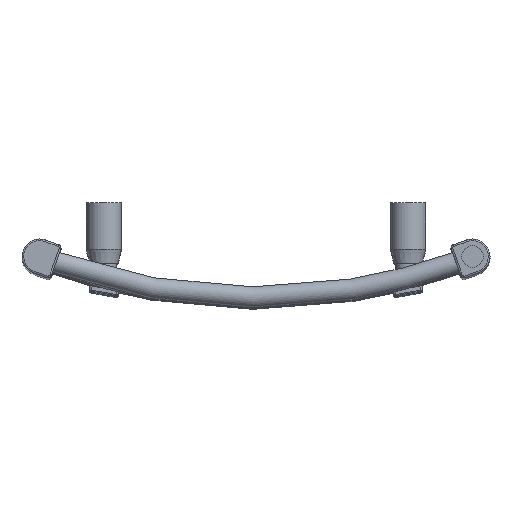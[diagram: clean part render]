
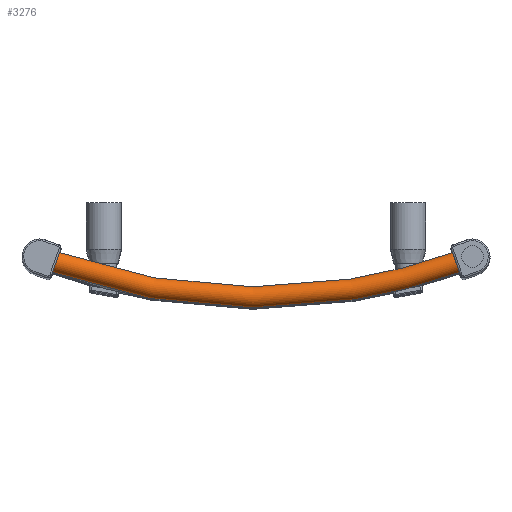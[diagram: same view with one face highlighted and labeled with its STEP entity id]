
A CAD part, top view. The second image highlights one B-rep face of the part: STEP entity #3276.
In plain terms, the highlighted toroidal (fillet/blend) face has major radius 505 mm and minor radius 9 mm.
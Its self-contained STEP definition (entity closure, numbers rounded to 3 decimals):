
#3249=CARTESIAN_POINT('',(0.,505.0,756.));
#3250=DIRECTION('',(0.,0.,1.0));
#3251=DIRECTION('',(1.0,0.0,0.0));
#3252=AXIS2_PLACEMENT_3D('',#3249,#3250,#3251);
#3253=TOROIDAL_SURFACE('',#3252,505.,9.);
#3254=CARTESIAN_POINT('',(167.839,38.26,756.0));
#3255=VERTEX_POINT('',#3254);
#3256=CARTESIAN_POINT('',(170.885,29.791,756.));
#3257=DIRECTION('',(0.941,0.338,0.));
#3258=DIRECTION('',(0.338,-0.941,0.));
#3259=AXIS2_PLACEMENT_3D('',#3256,#3257,#3258);
#3260=CIRCLE('',#3259,9.0);
#3261=EDGE_CURVE('',#3255,#3255,#3260,.T.);
#3262=ORIENTED_EDGE('',*,*,#3261,.F.);
#3263=EDGE_LOOP('',(#3262));
#3264=FACE_OUTER_BOUND('',#3263,.T.);
#3265=CARTESIAN_POINT('',(-167.839,38.26,756.));
#3266=VERTEX_POINT('',#3265);
#3267=CARTESIAN_POINT('',(-170.885,29.791,756.));
#3268=DIRECTION('',(-0.941,0.338,0.));
#3269=DIRECTION('',(-0.338,-0.941,0.));
#3270=AXIS2_PLACEMENT_3D('',#3267,#3268,#3269);
#3271=CIRCLE('',#3270,9.);
#3272=EDGE_CURVE('',#3266,#3266,#3271,.T.);
#3273=ORIENTED_EDGE('',*,*,#3272,.F.);
#3274=EDGE_LOOP('',(#3273));
#3275=FACE_BOUND('',#3274,.T.);
#3276=ADVANCED_FACE('',(#3264,#3275),#3253,.T.);
